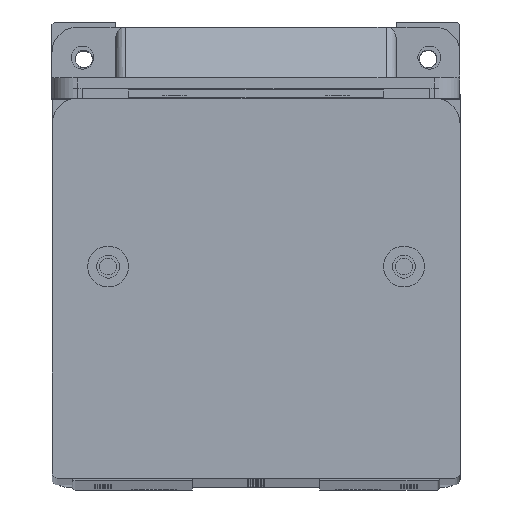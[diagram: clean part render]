
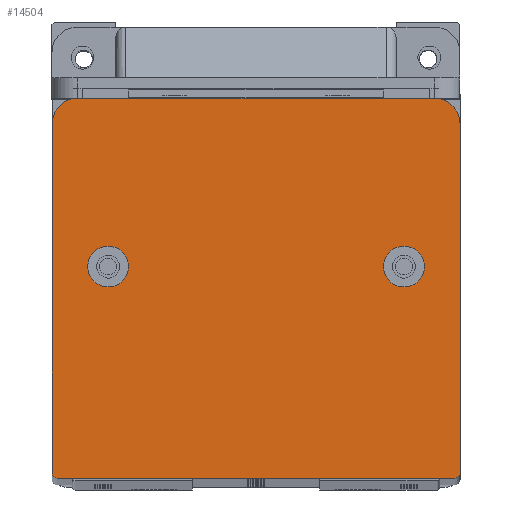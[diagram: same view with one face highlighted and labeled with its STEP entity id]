
A CAD part, top view. The second image highlights one B-rep face of the part: STEP entity #14504.
In plain terms, the highlighted planar face has unit normal (0, 0, 1).
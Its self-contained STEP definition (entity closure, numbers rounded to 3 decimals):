
#489 = CARTESIAN_POINT ( 'NONE',  ( 0., 0., 10. ) ) ;
#693 = ORIENTED_EDGE ( 'NONE', *, *, #1057, .T. ) ;
#717 = CARTESIAN_POINT ( 'NONE',  ( 0., 0., 10. ) ) ;
#737 = CARTESIAN_POINT ( 'NONE',  ( 65., 41.5, 10. ) ) ;
#981 = DIRECTION ( 'NONE',  ( -1., 0., 0. ) ) ;
#1057 = EDGE_CURVE ( 'NONE', #3404, #23754, #17628, .T. ) ;
#1074 = VERTEX_POINT ( 'NONE', #5286 ) ;
#1321 = DIRECTION ( 'NONE',  ( 0., 0., 1. ) ) ;
#1646 = AXIS2_PLACEMENT_3D ( 'NONE', #3376, #1321, #19324 ) ;
#1882 = EDGE_CURVE ( 'NONE', #6216, #1074, #9846, .T. ) ;
#2008 = CIRCLE ( 'NONE', #23451, 5. ) ;
#2183 = VECTOR ( 'NONE', #16970, 1000. ) ;
#2420 = ORIENTED_EDGE ( 'NONE', *, *, #13448, .T. ) ;
#2967 = EDGE_CURVE ( 'NONE', #3937, #24536, #12266, .T. ) ;
#2976 = ORIENTED_EDGE ( 'NONE', *, *, #24981, .T. ) ;
#3024 = CARTESIAN_POINT ( 'NONE',  ( 11., 41.5, 10. ) ) ;
#3074 = VERTEX_POINT ( 'NONE', #10794 ) ;
#3150 = VERTEX_POINT ( 'NONE', #13234 ) ;
#3169 = CARTESIAN_POINT ( 'NONE',  ( 75., 69.5, 10. ) ) ;
#3278 = CARTESIAN_POINT ( 'NONE',  ( 80., 69.5, 10. ) ) ;
#3328 = EDGE_CURVE ( 'NONE', #1074, #6216, #5855, .T. ) ;
#3376 = CARTESIAN_POINT ( 'NONE',  ( 1., 1., 10. ) ) ;
#3404 = VERTEX_POINT ( 'NONE', #3278 ) ;
#3693 = DIRECTION ( 'NONE',  ( 1., 0., 0. ) ) ;
#3727 = CIRCLE ( 'NONE', #15034, 4. ) ;
#3937 = VERTEX_POINT ( 'NONE', #23614 ) ;
#3987 = CARTESIAN_POINT ( 'NONE',  ( 1., 0., 10. ) ) ;
#4101 = VECTOR ( 'NONE', #3693, 1000. ) ;
#4156 = VECTOR ( 'NONE', #19946, 1000. ) ;
#5142 = VERTEX_POINT ( 'NONE', #3987 ) ;
#5241 = ORIENTED_EDGE ( 'NONE', *, *, #18413, .T. ) ;
#5286 = CARTESIAN_POINT ( 'NONE',  ( 73., 41.5, 10. ) ) ;
#5742 = AXIS2_PLACEMENT_3D ( 'NONE', #3169, #20610, #6988 ) ;
#5855 = CIRCLE ( 'NONE', #13237, 4. ) ;
#6201 = AXIS2_PLACEMENT_3D ( 'NONE', #16545, #14694, #16377 ) ;
#6216 = VERTEX_POINT ( 'NONE', #737 ) ;
#6448 = CARTESIAN_POINT ( 'NONE',  ( 69., 41.5, 10. ) ) ;
#6520 = CIRCLE ( 'NONE', #6201, 4. ) ;
#6988 = DIRECTION ( 'NONE',  ( -1., 0., 0. ) ) ;
#7299 = CARTESIAN_POINT ( 'NONE',  ( 5., 69.5, 10. ) ) ;
#7327 = AXIS2_PLACEMENT_3D ( 'NONE', #6448, #18152, #10271 ) ;
#9528 = EDGE_LOOP ( 'NONE', ( #22696, #21260 ) ) ;
#9731 = CARTESIAN_POINT ( 'NONE',  ( 75., 74.5, 10. ) ) ;
#9805 = ORIENTED_EDGE ( 'NONE', *, *, #23678, .T. ) ;
#9846 = CIRCLE ( 'NONE', #7327, 4. ) ;
#9909 = DIRECTION ( 'NONE',  ( 0., 0., 1. ) ) ;
#10271 = DIRECTION ( 'NONE',  ( 1., 0., 0. ) ) ;
#10388 = CARTESIAN_POINT ( 'NONE',  ( 80., 1., 10. ) ) ;
#10444 = ORIENTED_EDGE ( 'NONE', *, *, #19557, .T. ) ;
#10794 = CARTESIAN_POINT ( 'NONE',  ( 5., 74.5, 10. ) ) ;
#11125 = CARTESIAN_POINT ( 'NONE',  ( 80., 0., 10. ) ) ;
#12266 = CIRCLE ( 'NONE', #18426, 1. ) ;
#12371 = PLANE ( 'NONE',  #21171 ) ;
#13234 = CARTESIAN_POINT ( 'NONE',  ( 15., 41.5, 10. ) ) ;
#13237 = AXIS2_PLACEMENT_3D ( 'NONE', #23516, #9909, #16119 ) ;
#13349 = VERTEX_POINT ( 'NONE', #24491 ) ;
#13448 = EDGE_CURVE ( 'NONE', #3074, #17654, #2008, .T. ) ;
#13708 = CIRCLE ( 'NONE', #1646, 1. ) ;
#13995 = CARTESIAN_POINT ( 'NONE',  ( 0., 69.5, 10. ) ) ;
#14504 = ADVANCED_FACE ( 'NONE', ( #23362, #15769, #20925 ), #12371, .F. ) ;
#14525 = CARTESIAN_POINT ( 'NONE',  ( 0., 74.5, 10. ) ) ;
#14682 = DIRECTION ( 'NONE',  ( 0., 0., -1. ) ) ;
#14694 = DIRECTION ( 'NONE',  ( 0., 0., 1. ) ) ;
#14706 = DIRECTION ( 'NONE',  ( -1., 0., 0. ) ) ;
#14869 = CARTESIAN_POINT ( 'NONE',  ( 79., 1., 10. ) ) ;
#15034 = AXIS2_PLACEMENT_3D ( 'NONE', #3024, #24276, #18307 ) ;
#15063 = EDGE_CURVE ( 'NONE', #17654, #15996, #19980, .T. ) ;
#15076 = DIRECTION ( 'NONE',  ( -1., 0., 0. ) ) ;
#15161 = ORIENTED_EDGE ( 'NONE', *, *, #2967, .T. ) ;
#15751 = CARTESIAN_POINT ( 'NONE',  ( 0., 1., 10. ) ) ;
#15769 = FACE_BOUND ( 'NONE', #21604, .T. ) ;
#15996 = VERTEX_POINT ( 'NONE', #15751 ) ;
#16119 = DIRECTION ( 'NONE',  ( 1., 0., 0. ) ) ;
#16286 = DIRECTION ( 'NONE',  ( -1., 0., 0. ) ) ;
#16377 = DIRECTION ( 'NONE',  ( 1., 0., 0. ) ) ;
#16412 = ORIENTED_EDGE ( 'NONE', *, *, #25023, .F. ) ;
#16545 = CARTESIAN_POINT ( 'NONE',  ( 11., 41.5, 10. ) ) ;
#16970 = DIRECTION ( 'NONE',  ( 0., 1., 0. ) ) ;
#17628 = CIRCLE ( 'NONE', #5742, 5. ) ;
#17654 = VERTEX_POINT ( 'NONE', #13995 ) ;
#18022 = LINE ( 'NONE', #14525, #23196 ) ;
#18152 = DIRECTION ( 'NONE',  ( 0., 0., 1. ) ) ;
#18307 = DIRECTION ( 'NONE',  ( 1., 0., 0. ) ) ;
#18405 = DIRECTION ( 'NONE',  ( 0., 0., 1. ) ) ;
#18413 = EDGE_CURVE ( 'NONE', #24536, #3404, #24970, .T. ) ;
#18426 = AXIS2_PLACEMENT_3D ( 'NONE', #14869, #18405, #14706 ) ;
#19108 = DIRECTION ( 'NONE',  ( 0., 0., 1. ) ) ;
#19324 = DIRECTION ( 'NONE',  ( -1., 0., 0. ) ) ;
#19557 = EDGE_CURVE ( 'NONE', #15996, #5142, #13708, .T. ) ;
#19946 = DIRECTION ( 'NONE',  ( 0., -1., 0. ) ) ;
#19980 = LINE ( 'NONE', #489, #4156 ) ;
#20383 = ORIENTED_EDGE ( 'NONE', *, *, #23507, .F. ) ;
#20610 = DIRECTION ( 'NONE',  ( 0., 0., 1. ) ) ;
#20844 = LINE ( 'NONE', #23072, #4101 ) ;
#20925 = FACE_OUTER_BOUND ( 'NONE', #24169, .T. ) ;
#21171 = AXIS2_PLACEMENT_3D ( 'NONE', #717, #14682, #16286 ) ;
#21260 = ORIENTED_EDGE ( 'NONE', *, *, #1882, .F. ) ;
#21604 = EDGE_LOOP ( 'NONE', ( #20383, #16412 ) ) ;
#22065 = ORIENTED_EDGE ( 'NONE', *, *, #15063, .T. ) ;
#22696 = ORIENTED_EDGE ( 'NONE', *, *, #3328, .F. ) ;
#23072 = CARTESIAN_POINT ( 'NONE',  ( 0., 0., 10. ) ) ;
#23196 = VECTOR ( 'NONE', #981, 1000. ) ;
#23362 = FACE_BOUND ( 'NONE', #9528, .T. ) ;
#23451 = AXIS2_PLACEMENT_3D ( 'NONE', #7299, #19108, #15076 ) ;
#23507 = EDGE_CURVE ( 'NONE', #3150, #13349, #6520, .T. ) ;
#23516 = CARTESIAN_POINT ( 'NONE',  ( 69., 41.5, 10. ) ) ;
#23614 = CARTESIAN_POINT ( 'NONE',  ( 79., 0., 10. ) ) ;
#23678 = EDGE_CURVE ( 'NONE', #5142, #3937, #20844, .T. ) ;
#23754 = VERTEX_POINT ( 'NONE', #9731 ) ;
#24169 = EDGE_LOOP ( 'NONE', ( #22065, #10444, #9805, #15161, #5241, #693, #2976, #2420 ) ) ;
#24276 = DIRECTION ( 'NONE',  ( 0., 0., 1. ) ) ;
#24491 = CARTESIAN_POINT ( 'NONE',  ( 7., 41.5, 10. ) ) ;
#24536 = VERTEX_POINT ( 'NONE', #10388 ) ;
#24970 = LINE ( 'NONE', #11125, #2183 ) ;
#24981 = EDGE_CURVE ( 'NONE', #23754, #3074, #18022, .T. ) ;
#25023 = EDGE_CURVE ( 'NONE', #13349, #3150, #3727, .T. ) ;
